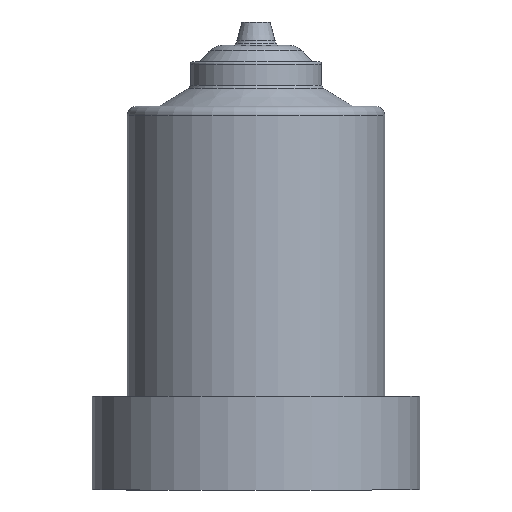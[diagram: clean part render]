
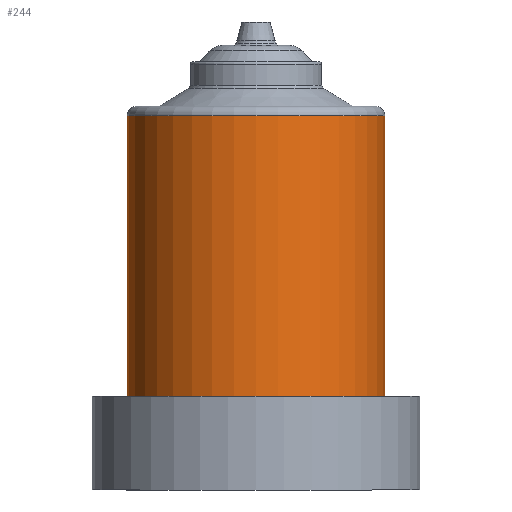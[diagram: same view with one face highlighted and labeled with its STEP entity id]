
A CAD part, front view. The second image highlights one B-rep face of the part: STEP entity #244.
In plain terms, the highlighted cylindrical face has radius 27.5 mm (diameter 55 mm), a partial arc.
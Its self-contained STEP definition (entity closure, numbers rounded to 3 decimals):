
#3 = DIRECTION ( 'NONE',  ( 1., 0., 0. ) ) ;
#12 = LINE ( 'NONE', #161, #791 ) ;
#14 = VERTEX_POINT ( 'NONE', #562 ) ;
#15 = ORIENTED_EDGE ( 'NONE', *, *, #438, .F. ) ;
#25 = VERTEX_POINT ( 'NONE', #363 ) ;
#38 = VERTEX_POINT ( 'NONE', #239 ) ;
#50 = CARTESIAN_POINT ( 'NONE',  ( 27.5, 0., 95. ) ) ;
#75 = DIRECTION ( 'NONE',  ( -1., 0., 0. ) ) ;
#88 = DIRECTION ( 'NONE',  ( 1., 0., 0. ) ) ;
#99 = FACE_OUTER_BOUND ( 'NONE', #103, .T. ) ;
#103 = EDGE_LOOP ( 'NONE', ( #839, #680, #325, #15 ) ) ;
#130 = LINE ( 'NONE', #491, #352 ) ;
#138 = DIRECTION ( 'NONE',  ( 0., 0., 1. ) ) ;
#161 = CARTESIAN_POINT ( 'NONE',  ( 27.5, 0., 88. ) ) ;
#239 = CARTESIAN_POINT ( 'NONE',  ( 27.5, 0., 35. ) ) ;
#244 = ADVANCED_FACE ( 'NONE', ( #99 ), #594, .T. ) ;
#249 = AXIS2_PLACEMENT_3D ( 'NONE', #607, #138, #75 ) ;
#269 = DIRECTION ( 'NONE',  ( 0., 0., -1. ) ) ;
#272 = AXIS2_PLACEMENT_3D ( 'NONE', #418, #821, #88 ) ;
#291 = EDGE_CURVE ( 'NONE', #25, #38, #578, .T. ) ;
#325 = ORIENTED_EDGE ( 'NONE', *, *, #291, .T. ) ;
#352 = VECTOR ( 'NONE', #687, 1000. ) ;
#363 = CARTESIAN_POINT ( 'NONE',  ( -27.5, 0., 35. ) ) ;
#399 = CARTESIAN_POINT ( 'NONE',  ( 0., 0., 88. ) ) ;
#409 = AXIS2_PLACEMENT_3D ( 'NONE', #399, #269, #3 ) ;
#418 = CARTESIAN_POINT ( 'NONE',  ( 0., 0., 95. ) ) ;
#438 = EDGE_CURVE ( 'NONE', #490, #38, #12, .T. ) ;
#490 = VERTEX_POINT ( 'NONE', #50 ) ;
#491 = CARTESIAN_POINT ( 'NONE',  ( -27.5, 0., 88. ) ) ;
#562 = CARTESIAN_POINT ( 'NONE',  ( -27.5, 0., 95. ) ) ;
#568 = DIRECTION ( 'NONE',  ( 0., 0., -1. ) ) ;
#578 = CIRCLE ( 'NONE', #249, 27.5 ) ;
#594 = CYLINDRICAL_SURFACE ( 'NONE', #409, 27.5 ) ;
#607 = CARTESIAN_POINT ( 'NONE',  ( 0., 0., 35. ) ) ;
#625 = EDGE_CURVE ( 'NONE', #14, #490, #699, .T. ) ;
#680 = ORIENTED_EDGE ( 'NONE', *, *, #705, .T. ) ;
#687 = DIRECTION ( 'NONE',  ( 0., 0., -1. ) ) ;
#699 = CIRCLE ( 'NONE', #272, 27.5 ) ;
#705 = EDGE_CURVE ( 'NONE', #14, #25, #130, .T. ) ;
#791 = VECTOR ( 'NONE', #568, 1000. ) ;
#821 = DIRECTION ( 'NONE',  ( 0., 0., 1. ) ) ;
#839 = ORIENTED_EDGE ( 'NONE', *, *, #625, .F. ) ;
